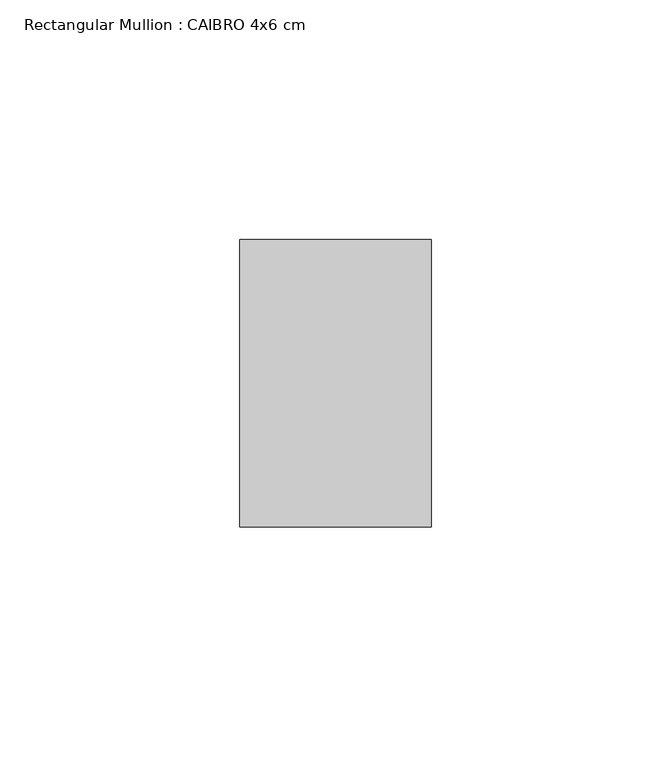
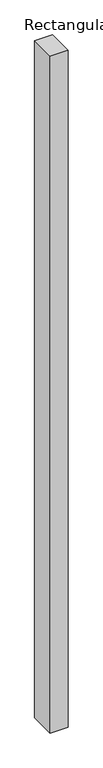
"""IFC4 building model written with IfcOpenShell, lengths in millimetres: member geometry, Rectangular Mullion : CAIBRO 4x6 cm."""

from ifc_helpers import new_model, si_unit, frame, origin, place, context, project, spatial, polyline, outline, extrude, source, transform, mapped, element, save


def rectangular_mullion_caibro_4x6_cm_011e73ed(model_context):
    return source(origin(), model_context, "Body", "SweptSolid", [
        extrude(outline(polyline([(0.0, 60.0), (0.0, 0.0), (-40.0, 0.0), (-40.0, 60.0), (0.0, 60.0)])), frame((0.0, 0.0, -1592.6201878), z_axis=(0.0, 0.0, 1.0), x_axis=(1.0, 0.0, 0.0)), (0.0, 0.0, 1.0), 1592.6201878),
    ])


if __name__ == "__main__":
    model = new_model("IFC4")
    model_context = context("Model", 3, world=origin())
    ifc_project = project(units=[si_unit("LENGTHUNIT", "METRE", prefix="MILLI")], contexts=[model_context])
    site = spatial("IfcSite", under=ifc_project)
    building = spatial("IfcBuilding", under=site)
    placement = place(None, origin())
    rectangular_mullion_caibro_4x6_cm_shape = rectangular_mullion_caibro_4x6_cm_011e73ed(model_context)
    element("IfcMember", 1, ObjectType="Rectangular Mullion : CAIBRO 4x6 cm", at=placement, inside=building, context=model_context, shape_type="MappedRepresentation", body=[
        mapped(rectangular_mullion_caibro_4x6_cm_shape, transform((0.0, 0.0, 0.0), x_axis=(1.0, 0.0, 0.0), y_axis=(0.0, 1.0, 0.0), z_axis=(0.0, 0.0, 1.0))),
    ])
    save(model, "model.ifc")
